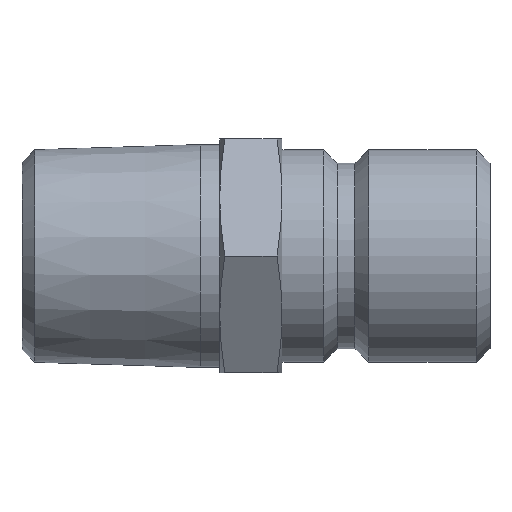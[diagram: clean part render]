
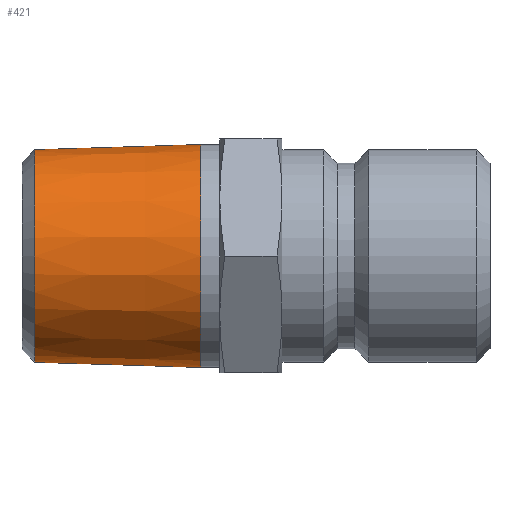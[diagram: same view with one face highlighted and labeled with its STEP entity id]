
A CAD part, front view. The second image highlights one B-rep face of the part: STEP entity #421.
In plain terms, the highlighted conical face has half-angle 1.79 degrees and reference radius 9.99 mm.
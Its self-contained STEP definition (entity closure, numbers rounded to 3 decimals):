
#61=CIRCLE('',#480,9.99);
#62=CIRCLE('',#482,10.478);
#112=ORIENTED_EDGE('',*,*,#221,.F.);
#113=ORIENTED_EDGE('',*,*,#220,.T.);
#220=EDGE_CURVE('',#263,#263,#61,.T.);
#221=EDGE_CURVE('',#264,#264,#62,.T.);
#263=VERTEX_POINT('',#783);
#264=VERTEX_POINT('',#786);
#314=EDGE_LOOP('',(#112));
#315=EDGE_LOOP('',(#113));
#360=FACE_BOUND('',#314,.T.);
#361=FACE_BOUND('',#315,.T.);
#403=CONICAL_SURFACE('',#481,9.99,0.031);
#421=ADVANCED_FACE('',(#360,#361),#403,.T.);
#480=AXIS2_PLACEMENT_3D('',#782,#567,#568);
#481=AXIS2_PLACEMENT_3D('',#784,#569,#570);
#482=AXIS2_PLACEMENT_3D('',#785,#571,#572);
#567=DIRECTION('',(1.,0.,0.));
#568=DIRECTION('',(0.,0.,-1.));
#569=DIRECTION('',(1.,0.,0.));
#570=DIRECTION('',(0.,0.,-1.));
#571=DIRECTION('',(1.,0.,0.));
#572=DIRECTION('',(0.,0.,-1.));
#782=CARTESIAN_POINT('',(1.2,0.,0.));
#783=CARTESIAN_POINT('',(1.2,0.,-9.99));
#784=CARTESIAN_POINT('',(1.2,0.,0.));
#785=CARTESIAN_POINT('',(16.786,0.,0.));
#786=CARTESIAN_POINT('',(16.786,0.,-10.478));
